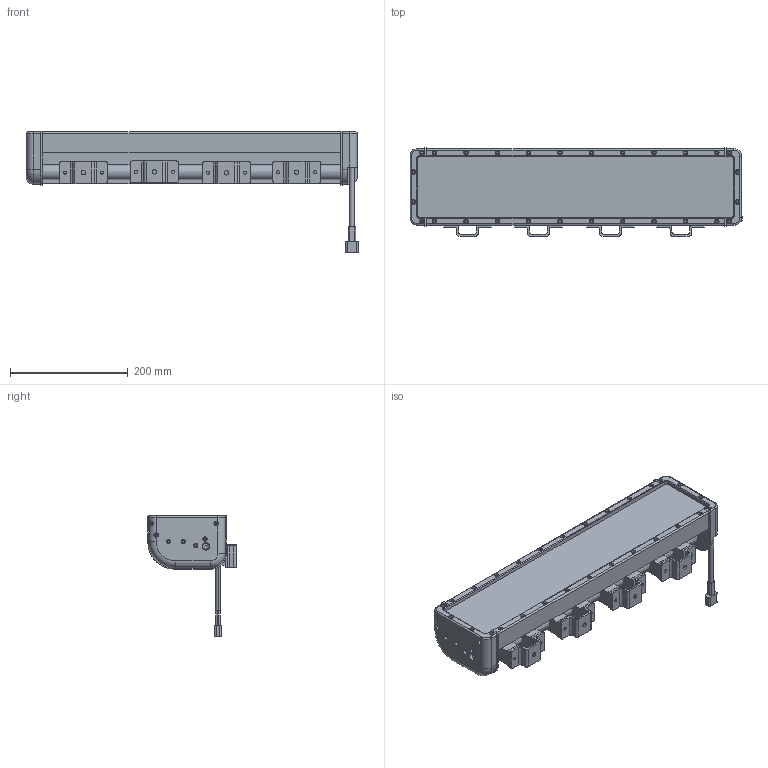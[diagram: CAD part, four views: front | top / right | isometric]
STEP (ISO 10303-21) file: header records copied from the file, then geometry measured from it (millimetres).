
FILE_DESCRIPTION (( 'STEP AP203' ), '1' );
FILE_NAME ('LEDLB-80X2E.STEP', '2017-04-07T13:53:04', ( '' ), ( '' ), 'SwSTEP 2.0', 'SolidWorks 2016', '' );
FILE_SCHEMA (( 'CONFIG_CONTROL_DESIGN' ));
Length unit declared in the file: inch
Products named in the file (1): LEDLB-80X2E
Bounding box: 564.88 x 150.26 x 207.26 mm (x, y, z)
Volume: 4487700.9 mm3; surface area: 989826.9 mm2
Topology: 15 solids, 15 shells, 1252 faces, 3009 edges, 1995 vertices
Faces by surface type: plane 717, cylinder 363, torus 172
Entity records: 37093 total; most frequent: DIRECTION 6715, CARTESIAN_POINT 6515, ORIENTED_EDGE 6018, EDGE_CURVE 3009, AXIS2_PLACEMENT_3D 2466, VERTEX_POINT 1995, LINE 1783, VECTOR 1783
